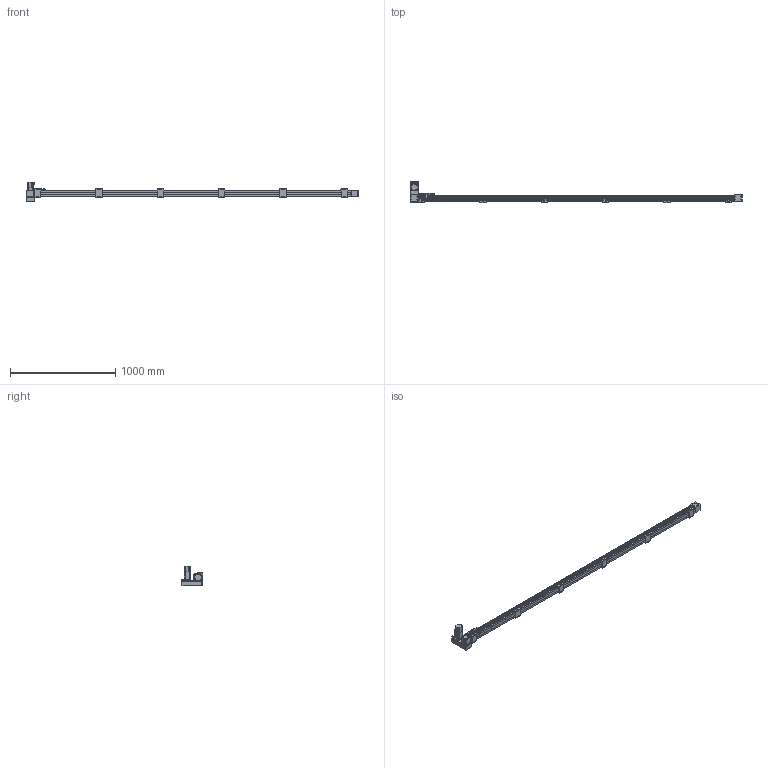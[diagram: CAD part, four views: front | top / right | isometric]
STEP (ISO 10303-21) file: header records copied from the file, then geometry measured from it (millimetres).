
FILE_DESCRIPTION(/* description */ ('STEP AP214'),/* implementation_level */ '2;1');
FILE_NAME(/* name */ 'SK60-P13-S2850-LU-T40-C1-N(0)',/* time_stamp */ '2023-04-06T04:49:03+02:00',/* author */ ('License CC BY-ND 4.0'),/* organization */ ('CADENAS'),/* preprocessor_version */ 'ST-DEVELOPER v19.3',/* originating_system */ 'PARTsolutions',/* authorisation */ ' ');
FILE_SCHEMA (('AUTOMOTIVE_DESIGN {1 0 10303 214 3 1 1}'));
Length unit declared in the file: millimetre
Products named in the file (10): SK60-P13-S2850-LU-T40-C1-N(0); PSC140-sensor; SK60-S450_seat; SK60-S450-BL-C1_slider; SK60_body3; SK60_body6; SK60-BL_body2; T40-p1; SK60-LU_fb; SK60-S2850-LU-C1_body
Assembly tree (20 placements, depth 2):
  SK60-P13-S2850-LU-T40-C1-N(0)
    PSC140-sensor  x3
    SK60-S450_seat  x6
    SK60-S450-BL-C1_slider
    SK60_body3  x3
    SK60_body6  x2
    SK60-BL_body2  x2
    T40-p1
    SK60-LU_fb
    SK60-S2850-LU-C1_body
Bounding box: 3155.5 x 201 x 189.7 mm (x, y, z)
Volume: 11903345.8 mm3; surface area: 1393091.3 mm2
Topology: 20 solids, 20 shells, 986 faces, 2440 edges, 1605 vertices
Faces by surface type: plane 620, cylinder 326, cone 38, torus 2
Full cylindrical faces by diameter (mm): 2.8 x3, 3.3 x4, 4 x2, 4.5 x30, 4.6 x3, 4.917 x32, 5 x6, 5.478 x4, 5.5 x35, 6.5 x12, 7 x2, 8 x4, 8.5 x4, 9.988 x4, 10 x24, 14 x1, 47 x3, 50 x2
Entity records: 18687 total; most frequent: DIRECTION 3192, CARTESIAN_POINT 3154, ORIENTED_EDGE 2940, EDGE_CURVE 1470, AXIS2_PLACEMENT_3D 1072, LINE 1048, VECTOR 1048, VERTEX_POINT 1034
